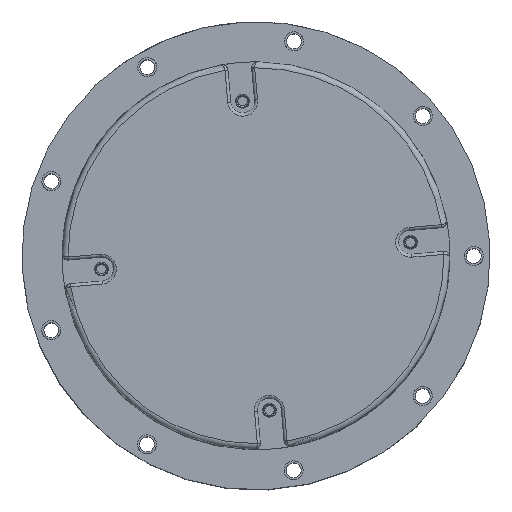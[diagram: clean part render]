
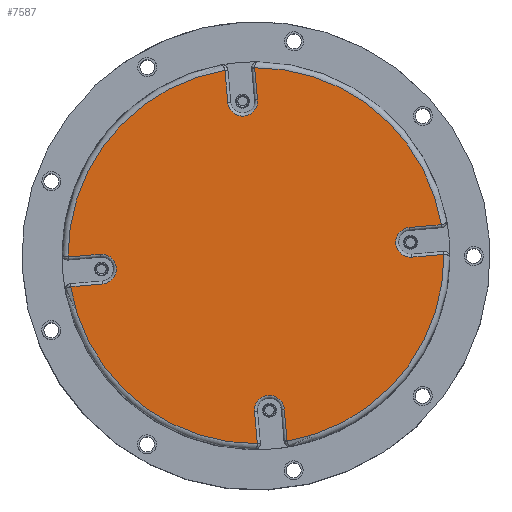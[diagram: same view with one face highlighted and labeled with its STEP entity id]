
A CAD part, top view. The second image highlights one B-rep face of the part: STEP entity #7587.
In plain terms, the highlighted planar face has unit normal (0, 0, 1).
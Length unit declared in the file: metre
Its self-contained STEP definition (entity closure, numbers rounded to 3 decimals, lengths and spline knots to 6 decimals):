
#172=PLANE('',#8601);
#642=LINE('',#13291,#1048);
#648=LINE('',#13386,#1054);
#681=LINE('',#13601,#1087);
#689=LINE('',#13636,#1095);
#695=LINE('',#13818,#1101);
#704=LINE('',#13867,#1110);
#705=LINE('',#14032,#1111);
#714=LINE('',#14072,#1120);
#1048=VECTOR('',#10601,1.);
#1054=VECTOR('',#10637,1.);
#1087=VECTOR('',#10768,1.);
#1095=VECTOR('',#10810,1.);
#1101=VECTOR('',#10844,1.);
#1110=VECTOR('',#10895,1.);
#1111=VECTOR('',#10910,1.);
#1120=VECTOR('',#10957,1.);
#3058=ORIENTED_EDGE('',*,*,#4298,.T.);
#3059=ORIENTED_EDGE('',*,*,#4302,.T.);
#3060=ORIENTED_EDGE('',*,*,#4214,.T.);
#3061=ORIENTED_EDGE('',*,*,#4209,.F.);
#3062=ORIENTED_EDGE('',*,*,#4225,.T.);
#3063=ORIENTED_EDGE('',*,*,#4227,.F.);
#3064=ORIENTED_EDGE('',*,*,#4229,.T.);
#3065=ORIENTED_EDGE('',*,*,#4127,.T.);
#3066=ORIENTED_EDGE('',*,*,#4153,.T.);
#3067=ORIENTED_EDGE('',*,*,#4149,.F.);
#3068=ORIENTED_EDGE('',*,*,#4148,.T.);
#3069=ORIENTED_EDGE('',*,*,#4132,.F.);
#3070=ORIENTED_EDGE('',*,*,#4135,.T.);
#3071=ORIENTED_EDGE('',*,*,#4243,.T.);
#3072=ORIENTED_EDGE('',*,*,#4251,.T.);
#3073=ORIENTED_EDGE('',*,*,#4246,.F.);
#3074=ORIENTED_EDGE('',*,*,#4266,.T.);
#3075=ORIENTED_EDGE('',*,*,#4268,.F.);
#3076=ORIENTED_EDGE('',*,*,#4270,.T.);
#3077=ORIENTED_EDGE('',*,*,#4273,.T.);
#3078=ORIENTED_EDGE('',*,*,#4281,.T.);
#3079=ORIENTED_EDGE('',*,*,#4276,.F.);
#3080=ORIENTED_EDGE('',*,*,#4294,.T.);
#3081=ORIENTED_EDGE('',*,*,#4296,.F.);
#4127=EDGE_CURVE('',#4984,#4987,#5588,.T.);
#4132=EDGE_CURVE('',#4991,#4992,#642,.T.);
#4135=EDGE_CURVE('',#4991,#4993,#5593,.T.);
#4148=EDGE_CURVE('',#5001,#4992,#5599,.T.);
#4149=EDGE_CURVE('',#5001,#5002,#648,.T.);
#4153=EDGE_CURVE('',#4987,#5002,#5602,.T.);
#4209=EDGE_CURVE('',#5039,#5040,#681,.T.);
#4214=EDGE_CURVE('',#5038,#5040,#5628,.T.);
#4225=EDGE_CURVE('',#5039,#5047,#5633,.T.);
#4227=EDGE_CURVE('',#5048,#5047,#689,.T.);
#4229=EDGE_CURVE('',#5048,#4984,#5635,.T.);
#4243=EDGE_CURVE('',#4993,#5058,#5642,.T.);
#4246=EDGE_CURVE('',#5060,#5061,#695,.T.);
#4251=EDGE_CURVE('',#5058,#5061,#5647,.T.);
#4266=EDGE_CURVE('',#5060,#5071,#5654,.T.);
#4268=EDGE_CURVE('',#5072,#5071,#704,.T.);
#4270=EDGE_CURVE('',#5072,#5073,#5657,.T.);
#4273=EDGE_CURVE('',#5073,#5074,#5658,.T.);
#4276=EDGE_CURVE('',#5076,#5077,#705,.T.);
#4281=EDGE_CURVE('',#5074,#5077,#5663,.T.);
#4294=EDGE_CURVE('',#5076,#5086,#5669,.T.);
#4296=EDGE_CURVE('',#5087,#5086,#714,.T.);
#4298=EDGE_CURVE('',#5087,#5088,#5671,.T.);
#4302=EDGE_CURVE('',#5088,#5038,#5673,.T.);
#4984=VERTEX_POINT('',#13184);
#4987=VERTEX_POINT('',#13198);
#4991=VERTEX_POINT('',#13290);
#4992=VERTEX_POINT('',#13292);
#4993=VERTEX_POINT('',#13296);
#5001=VERTEX_POINT('',#13383);
#5002=VERTEX_POINT('',#13387);
#5038=VERTEX_POINT('',#13586);
#5039=VERTEX_POINT('',#13602);
#5040=VERTEX_POINT('',#13603);
#5047=VERTEX_POINT('',#13631);
#5048=VERTEX_POINT('',#13635);
#5058=VERTEX_POINT('',#13730);
#5060=VERTEX_POINT('',#13819);
#5061=VERTEX_POINT('',#13820);
#5071=VERTEX_POINT('',#13862);
#5072=VERTEX_POINT('',#13866);
#5073=VERTEX_POINT('',#13870);
#5074=VERTEX_POINT('',#13944);
#5076=VERTEX_POINT('',#14033);
#5077=VERTEX_POINT('',#14034);
#5086=VERTEX_POINT('',#14067);
#5087=VERTEX_POINT('',#14071);
#5088=VERTEX_POINT('',#14078);
#5588=CIRCLE('',#8449,0.0315);
#5593=CIRCLE('',#8456,0.0005);
#5599=CIRCLE('',#8466,0.0025);
#5602=CIRCLE('',#8471,0.0005);
#5628=CIRCLE('',#8521,0.0005);
#5633=CIRCLE('',#8531,0.0025);
#5635=CIRCLE('',#8535,0.0005);
#5642=CIRCLE('',#8545,0.0315);
#5647=CIRCLE('',#8552,0.0005);
#5654=CIRCLE('',#8566,0.0025);
#5657=CIRCLE('',#8571,0.0005);
#5658=CIRCLE('',#8573,0.0315);
#5663=CIRCLE('',#8580,0.0005);
#5669=CIRCLE('',#8592,0.0025);
#5671=CIRCLE('',#8596,0.0005);
#5673=CIRCLE('',#8600,0.0315);
#6285=EDGE_LOOP('',(#3058,#3059,#3060,#3061,#3062,#3063,#3064,#3065,#3066,
#3067,#3068,#3069,#3070,#3071,#3072,#3073,#3074,#3075,#3076,#3077,#3078,
#3079,#3080,#3081));
#6916=FACE_BOUND('',#6285,.T.);
#7587=ADVANCED_FACE('',(#6916),#172,.F.);
#8449=AXIS2_PLACEMENT_3D('',#13199,#10592,#10593);
#8456=AXIS2_PLACEMENT_3D('',#13298,#10608,#10609);
#8466=AXIS2_PLACEMENT_3D('',#13384,#10633,#10634);
#8471=AXIS2_PLACEMENT_3D('',#13393,#10645,#10646);
#8521=AXIS2_PLACEMENT_3D('',#13610,#10778,#10779);
#8531=AXIS2_PLACEMENT_3D('',#13632,#10804,#10805);
#8535=AXIS2_PLACEMENT_3D('',#13643,#10813,#10814);
#8545=AXIS2_PLACEMENT_3D('',#13731,#10838,#10839);
#8552=AXIS2_PLACEMENT_3D('',#13828,#10854,#10855);
#8566=AXIS2_PLACEMENT_3D('',#13863,#10889,#10890);
#8571=AXIS2_PLACEMENT_3D('',#13871,#10900,#10901);
#8573=AXIS2_PLACEMENT_3D('',#13945,#10904,#10905);
#8580=AXIS2_PLACEMENT_3D('',#14042,#10920,#10921);
#8592=AXIS2_PLACEMENT_3D('',#14068,#10951,#10952);
#8596=AXIS2_PLACEMENT_3D('',#14080,#10960,#10961);
#8600=AXIS2_PLACEMENT_3D('',#14148,#10968,#10969);
#8601=AXIS2_PLACEMENT_3D('',#14149,#10970,#10971);
#10592=DIRECTION('',(0.,0.,1.));
#10593=DIRECTION('',(-0.086,0.996,0.));
#10601=DIRECTION('',(-0.996,-0.086,0.));
#10608=DIRECTION('',(0.,0.,1.));
#10609=DIRECTION('',(0.086,-0.996,0.));
#10633=DIRECTION('',(0.,0.,-1.));
#10634=DIRECTION('',(0.086,-0.996,0.));
#10637=DIRECTION('',(0.996,0.086,0.));
#10645=DIRECTION('',(0.,0.,1.));
#10646=DIRECTION('',(0.001,1.,0.));
#10768=DIRECTION('',(0.086,-0.996,0.));
#10778=DIRECTION('',(0.,0.,1.));
#10779=DIRECTION('',(1.,-0.001,0.));
#10804=DIRECTION('',(0.,0.,-1.));
#10805=DIRECTION('',(-0.996,-0.086,0.));
#10810=DIRECTION('',(-0.086,0.996,0.));
#10813=DIRECTION('',(0.,0.,1.));
#10814=DIRECTION('',(-0.996,-0.086,0.));
#10838=DIRECTION('',(0.,0.,1.));
#10839=DIRECTION('',(-0.086,0.996,0.));
#10844=DIRECTION('',(-0.086,0.996,0.));
#10854=DIRECTION('',(0.,0.,1.));
#10855=DIRECTION('',(-1.,0.001,0.));
#10889=DIRECTION('',(0.,0.,-1.));
#10890=DIRECTION('',(0.996,0.086,0.));
#10895=DIRECTION('',(0.086,-0.996,0.));
#10900=DIRECTION('',(0.,0.,1.));
#10901=DIRECTION('',(0.996,0.086,0.));
#10904=DIRECTION('',(0.,0.,1.));
#10905=DIRECTION('',(-0.165,0.986,0.));
#10910=DIRECTION('',(-0.996,-0.086,0.));
#10920=DIRECTION('',(0.,0.,1.));
#10921=DIRECTION('',(-0.001,-1.,0.));
#10951=DIRECTION('',(0.,0.,-1.));
#10952=DIRECTION('',(-0.086,0.996,0.));
#10957=DIRECTION('',(0.996,0.086,0.));
#10960=DIRECTION('',(0.,0.,1.));
#10961=DIRECTION('',(-0.086,0.996,0.));
#10968=DIRECTION('',(0.,0.,1.));
#10969=DIRECTION('',(-0.986,-0.165,0.));
#10970=DIRECTION('',(0.,0.,-1.));
#10971=DIRECTION('',(0.086,-0.996,0.));
#13184=CARTESIAN_POINT('',(-0.207795,-0.026067,0.2505));
#13198=CARTESIAN_POINT('',(-0.181501,0.00522,0.2505));
#13199=CARTESIAN_POINT('',(-0.213,0.005,0.2505));
#13290=CARTESIAN_POINT('',(-0.181976,0.0102,0.2505));
#13291=CARTESIAN_POINT('',(-0.246142,0.004636,0.2505));
#13292=CARTESIAN_POINT('',(-0.187313,0.009737,0.2505));
#13296=CARTESIAN_POINT('',(-0.181933,0.010205,0.2505));
#13298=CARTESIAN_POINT('',(-0.18202,0.010698,0.2505));
#13383=CARTESIAN_POINT('',(-0.186881,0.004756,0.2505));
#13384=CARTESIAN_POINT('',(-0.187097,0.007246,0.2505));
#13386=CARTESIAN_POINT('',(-0.238538,0.000276,0.2505));
#13387=CARTESIAN_POINT('',(-0.181544,0.005218,0.2505));
#13393=CARTESIAN_POINT('',(-0.181501,0.00472,0.2505));
#13586=CARTESIAN_POINT('',(-0.21278,-0.026499,0.2505));
#13601=CARTESIAN_POINT('',(-0.217724,0.030546,0.2505));
#13602=CARTESIAN_POINT('',(-0.213245,-0.021119,0.2505));
#13603=CARTESIAN_POINT('',(-0.212782,-0.026455,0.2505));
#13610=CARTESIAN_POINT('',(-0.21328,-0.026499,0.2505));
#13631=CARTESIAN_POINT('',(-0.208263,-0.020687,0.2505));
#13632=CARTESIAN_POINT('',(-0.210754,-0.020903,0.2505));
#13635=CARTESIAN_POINT('',(-0.207801,-0.026023,0.2505));
#13636=CARTESIAN_POINT('',(-0.213364,0.038139,0.2505));
#13643=CARTESIAN_POINT('',(-0.207302,-0.02598,0.2505));
#13730=CARTESIAN_POINT('',(-0.21322,0.036499,0.2505));
#13731=CARTESIAN_POINT('',(-0.213,0.005,0.2505));
#13818=CARTESIAN_POINT('',(-0.212755,0.031119,0.2505));
#13819=CARTESIAN_POINT('',(-0.212755,0.031119,0.2505));
#13820=CARTESIAN_POINT('',(-0.213218,0.036456,0.2505));
#13828=CARTESIAN_POINT('',(-0.21272,0.036499,0.2505));
#13862=CARTESIAN_POINT('',(-0.217737,0.030687,0.2505));
#13863=CARTESIAN_POINT('',(-0.215246,0.030903,0.2505));
#13866=CARTESIAN_POINT('',(-0.218199,0.036024,0.2505));
#13867=CARTESIAN_POINT('',(-0.218199,0.036024,0.2505));
#13870=CARTESIAN_POINT('',(-0.218205,0.036067,0.2505));
#13871=CARTESIAN_POINT('',(-0.218698,0.035981,0.2505));
#13944=CARTESIAN_POINT('',(-0.244499,0.00478,0.2505));
#13945=CARTESIAN_POINT('',(-0.213,0.005,0.2505));
#14032=CARTESIAN_POINT('',(-0.239119,0.005245,0.2505));
#14033=CARTESIAN_POINT('',(-0.239119,0.005245,0.2505));
#14034=CARTESIAN_POINT('',(-0.244456,0.004782,0.2505));
#14042=CARTESIAN_POINT('',(-0.244499,0.00528,0.2505));
#14067=CARTESIAN_POINT('',(-0.238687,0.000264,0.2505));
#14068=CARTESIAN_POINT('',(-0.238903,0.002754,0.2505));
#14071=CARTESIAN_POINT('',(-0.244024,-0.000199,0.2505));
#14072=CARTESIAN_POINT('',(-0.244024,-0.000199,0.2505));
#14078=CARTESIAN_POINT('',(-0.244067,-0.000205,0.2505));
#14080=CARTESIAN_POINT('',(-0.24398,-0.000697,0.2505));
#14148=CARTESIAN_POINT('',(-0.213,0.005,0.2505));
#14149=CARTESIAN_POINT('',(-0.213,0.005,0.2505));
